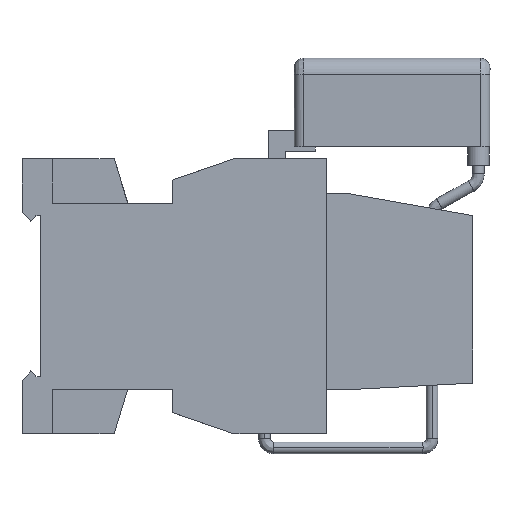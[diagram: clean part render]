
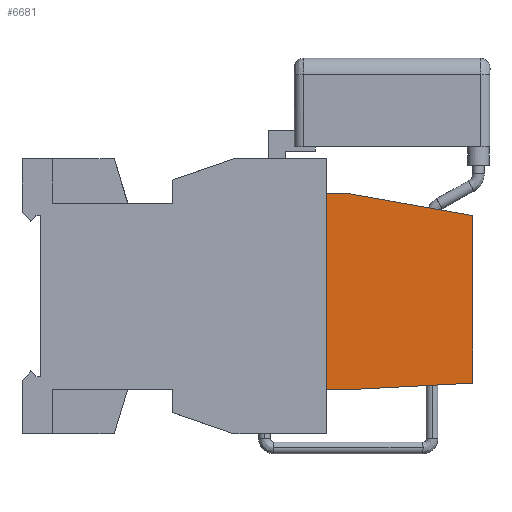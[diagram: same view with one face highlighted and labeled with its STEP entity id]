
A CAD part, left-side view. The second image highlights one B-rep face of the part: STEP entity #6681.
In plain terms, the highlighted planar face has unit normal (-1, 0, 0).
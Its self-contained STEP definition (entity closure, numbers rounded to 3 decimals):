
#487 = ORIENTED_EDGE ( 'NONE', *, *, #5642, .F. ) ;
#1238 = DIRECTION ( 'NONE',  ( 0., 0.999, -0.052 ) ) ;
#1899 = LINE ( 'NONE', #3448, #10935 ) ;
#2497 = AXIS2_PLACEMENT_3D ( 'NONE', #13760, #13990, #13704 ) ;
#2688 = ORIENTED_EDGE ( 'NONE', *, *, #3236, .F. ) ;
#2909 = CARTESIAN_POINT ( 'NONE',  ( 24.192, -25.647, 22. ) ) ;
#2920 = VERTEX_POINT ( 'NONE', #7963 ) ;
#3236 = EDGE_CURVE ( 'NONE', #12677, #11782, #13753, .T. ) ;
#3448 = CARTESIAN_POINT ( 'NONE',  ( 24.192, -57.147, -18.632 ) ) ;
#4407 = LINE ( 'NONE', #7760, #13114 ) ;
#4487 = VERTEX_POINT ( 'NONE', #14343 ) ;
#4834 = DIRECTION ( 'NONE',  ( 0., 1., 0. ) ) ;
#4884 = CARTESIAN_POINT ( 'NONE',  ( 24.192, -40.732, -20. ) ) ;
#5015 = LINE ( 'NONE', #8610, #11332 ) ;
#5203 = VERTEX_POINT ( 'NONE', #9860 ) ;
#5642 = EDGE_CURVE ( 'NONE', #11782, #8271, #5015, .T. ) ;
#5832 = EDGE_LOOP ( 'NONE', ( #9945, #10223, #11342, #487, #2688, #7443 ) ) ;
#6360 = EDGE_CURVE ( 'NONE', #5203, #12677, #1899, .T. ) ;
#6681 = ADVANCED_FACE ( 'NONE', ( #8893 ), #13744, .F. ) ;
#7161 = LINE ( 'NONE', #7795, #10340 ) ;
#7228 = EDGE_CURVE ( 'NONE', #8271, #2920, #7533, .T. ) ;
#7269 = EDGE_CURVE ( 'NONE', #4487, #5203, #7161, .T. ) ;
#7272 = EDGE_CURVE ( 'NONE', #2920, #4487, #4407, .T. ) ;
#7443 = ORIENTED_EDGE ( 'NONE', *, *, #6360, .F. ) ;
#7533 = LINE ( 'NONE', #7898, #11078 ) ;
#7760 = CARTESIAN_POINT ( 'NONE',  ( 24.192, -30.647, 22. ) ) ;
#7762 = DIRECTION ( 'NONE',  ( 0., 0., -1. ) ) ;
#7795 = CARTESIAN_POINT ( 'NONE',  ( 24.192, -57.147, 0.317 ) ) ;
#7837 = DIRECTION ( 'NONE',  ( 0., -0.985, -0.174 ) ) ;
#7898 = CARTESIAN_POINT ( 'NONE',  ( 24.192, -40.732, 22. ) ) ;
#7963 = CARTESIAN_POINT ( 'NONE',  ( 24.192, -30.647, 22. ) ) ;
#8033 = DIRECTION ( 'NONE',  ( 0., -1., 0. ) ) ;
#8181 = CARTESIAN_POINT ( 'NONE',  ( 24.192, -25.647, -20. ) ) ;
#8271 = VERTEX_POINT ( 'NONE', #2909 ) ;
#8610 = CARTESIAN_POINT ( 'NONE',  ( 24.192, -25.647, 0.317 ) ) ;
#8755 = DIRECTION ( 'NONE',  ( 0., 0., 1. ) ) ;
#8893 = FACE_OUTER_BOUND ( 'NONE', #5832, .T. ) ;
#9860 = CARTESIAN_POINT ( 'NONE',  ( 24.192, -57.147, -18.632 ) ) ;
#9945 = ORIENTED_EDGE ( 'NONE', *, *, #7269, .F. ) ;
#10223 = ORIENTED_EDGE ( 'NONE', *, *, #7272, .F. ) ;
#10340 = VECTOR ( 'NONE', #7762, 1000. ) ;
#10935 = VECTOR ( 'NONE', #1238, 1000. ) ;
#11078 = VECTOR ( 'NONE', #8033, 1000. ) ;
#11332 = VECTOR ( 'NONE', #8755, 1000. ) ;
#11342 = ORIENTED_EDGE ( 'NONE', *, *, #7228, .F. ) ;
#11782 = VERTEX_POINT ( 'NONE', #8181 ) ;
#12137 = CARTESIAN_POINT ( 'NONE',  ( 24.192, -31.047, -20. ) ) ;
#12677 = VERTEX_POINT ( 'NONE', #12137 ) ;
#13114 = VECTOR ( 'NONE', #7837, 1000. ) ;
#13401 = VECTOR ( 'NONE', #4834, 1000. ) ;
#13704 = DIRECTION ( 'NONE',  ( 0., 0., -1. ) ) ;
#13744 = PLANE ( 'NONE',  #2497 ) ;
#13753 = LINE ( 'NONE', #4884, #13401 ) ;
#13760 = CARTESIAN_POINT ( 'NONE',  ( 24.192, -40.732, 0.317 ) ) ;
#13990 = DIRECTION ( 'NONE',  ( 1., 0., 0. ) ) ;
#14343 = CARTESIAN_POINT ( 'NONE',  ( 24.192, -57.147, 17.327 ) ) ;
